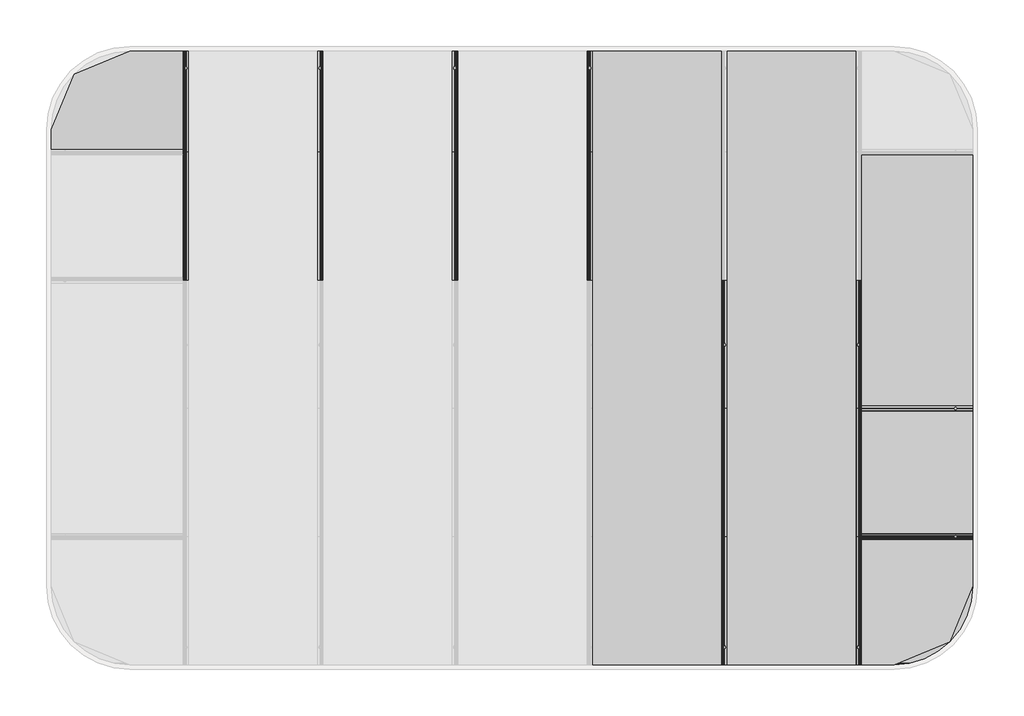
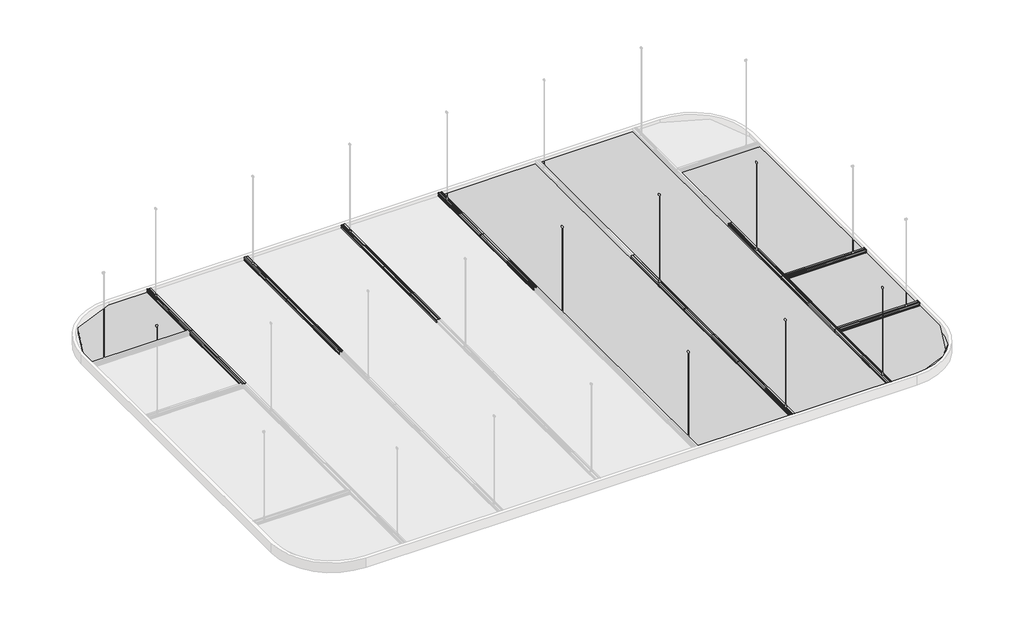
# One storey, part 3 of 4: 89 members, 50 plates.
"""IFC4 building model written with IfcOpenShell, lengths in millimetres."""

from ifc_helpers import new_model, si_unit, origin, place, context, project, spatial, transform, mapped, element, save
from components import circular_mullion_88ff0090, circular_mullion_51bf8350, circular_mullion_cross_tees_bf580255, circular_mullion_hub_cas_a36db33c, circular_mullion_hub_cas_a10b3b58, circular_mullion_hub_cas_675684c7, plate_e06be09b, plate_8db3f6ee, system_panel_solid_2f8d69e4, system_panel_solid_ed8a8987, system_panel_solid_9c654986, system_panel_solid_8416bcea, system_panel_solid_b85fb2bd

model = new_model("IFC4")

# Units and contexts
model_context = context("Model", 3, world=origin())
ifc_project = project(units=[si_unit("LENGTHUNIT", "METRE", prefix="MILLI")], contexts=[model_context])

# Site, building, storey
site = spatial("IfcSite", under=ifc_project)
building = spatial("IfcBuilding", under=site)
storey = spatial("IfcBuildingStorey", under=building, Name="Rockfon Hub", Elevation=2000.0)

# Members
placement = place(None, origin())
circular_mullion_shape = circular_mullion_88ff0090(model_context)
element("IfcMember", 1, ObjectType="Circular Mullion : Main Runners", at=placement, inside=storey, context=model_context, shape_type="MappedRepresentation", body=[
    mapped(circular_mullion_shape, transform((12292.6080689, 10076.1970288, 2001.0), x_axis=(0.0, 1.0, 0.0), y_axis=(0.0, 0.0, -1.0), z_axis=(-1.0, 0.0, 0.0))),
])
element("IfcMember", 2, ObjectType="Circular Mullion : Main Runners", at=placement, inside=storey, context=model_context, shape_type="MappedRepresentation", body=[
    mapped(circular_mullion_shape, transform((12892.6080689, 10076.1970288, 2001.0), x_axis=(0.0, 1.0, 0.0), y_axis=(0.0, 0.0, -1.0), z_axis=(-1.0, 0.0, 0.0))),
])
element("IfcMember", 3, ObjectType="Circular Mullion : Main Runners", at=placement, inside=storey, context=model_context, shape_type="MappedRepresentation", body=[
    mapped(circular_mullion_shape, transform((13492.6080689, 10076.1970288, 2001.0), x_axis=(0.0, 1.0, 0.0), y_axis=(0.0, 0.0, -1.0), z_axis=(-1.0, 0.0, 0.0))),
])
element("IfcMember", 4, ObjectType="Circular Mullion : Main Runners", at=placement, inside=storey, context=model_context, shape_type="MappedRepresentation", body=[
    mapped(circular_mullion_shape, transform((14092.6080689, 10076.1970288, 2001.0), x_axis=(0.0, 1.0, 0.0), y_axis=(0.0, 0.0, -1.0), z_axis=(-1.0, 0.0, 0.0))),
])
element("IfcMember", 5, ObjectType="Circular Mullion : Main Runners", at=placement, inside=storey, context=model_context, shape_type="MappedRepresentation", body=[
    mapped(circular_mullion_shape, transform((14692.6080689, 10076.1970288, 2001.0), x_axis=(0.0, 1.0, 0.0), y_axis=(0.0, 0.0, -1.0), z_axis=(-1.0, 0.0, 0.0))),
])
element("IfcMember", 6, ObjectType="Circular Mullion : Main Runners", at=placement, inside=storey, context=model_context, shape_type="MappedRepresentation", body=[
    mapped(circular_mullion_shape, transform((15292.6080689, 10076.1970288, 2001.0), x_axis=(0.0, 1.0, 0.0), y_axis=(0.0, 0.0, -1.0), z_axis=(-1.0, 0.0, 0.0))),
])
element("IfcMember", 7, ObjectType="Circular Mullion : Main Runners", at=placement, inside=storey, context=model_context, shape_type="MappedRepresentation", body=[
    mapped(circular_mullion_shape, transform((15892.6080689, 10076.1970288, 2001.0), x_axis=(0.0, 1.0, 0.0), y_axis=(0.0, 0.0, -1.0), z_axis=(-1.0, 0.0, 0.0))),
])
element("IfcMember", 8, ObjectType="Circular Mullion : Main Runners", at=placement, inside=storey, context=model_context, shape_type="MappedRepresentation", body=[
    mapped(circular_mullion_shape, transform((12292.6080689, 10676.1970288, 2001.0), x_axis=(0.0, 1.0, 0.0), y_axis=(0.0, 0.0, -1.0), z_axis=(-1.0, 0.0, 0.0))),
])
element("IfcMember", 9, ObjectType="Circular Mullion : Main Runners", at=placement, inside=storey, context=model_context, shape_type="MappedRepresentation", body=[
    mapped(circular_mullion_shape, transform((12892.6080689, 10676.1970288, 2001.0), x_axis=(0.0, 1.0, 0.0), y_axis=(0.0, 0.0, -1.0), z_axis=(-1.0, 0.0, 0.0))),
])
element("IfcMember", 10, ObjectType="Circular Mullion : Main Runners", at=placement, inside=storey, context=model_context, shape_type="MappedRepresentation", body=[
    mapped(circular_mullion_shape, transform((13492.6080689, 10676.1970288, 2001.0), x_axis=(0.0, 1.0, 0.0), y_axis=(0.0, 0.0, -1.0), z_axis=(-1.0, 0.0, 0.0))),
])
element("IfcMember", 11, ObjectType="Circular Mullion : Main Runners", at=placement, inside=storey, context=model_context, shape_type="MappedRepresentation", body=[
    mapped(circular_mullion_shape, transform((14092.6080689, 10676.1970288, 2001.0), x_axis=(0.0, 1.0, 0.0), y_axis=(0.0, 0.0, -1.0), z_axis=(-1.0, 0.0, 0.0))),
])
element("IfcMember", 12, ObjectType="Circular Mullion : Main Runners", at=placement, inside=storey, context=model_context, shape_type="MappedRepresentation", body=[
    mapped(circular_mullion_shape, transform((14692.6080689, 10676.1970288, 2001.0), x_axis=(0.0, 1.0, 0.0), y_axis=(0.0, 0.0, -1.0), z_axis=(-1.0, 0.0, 0.0))),
])
element("IfcMember", 13, ObjectType="Circular Mullion : Main Runners", at=placement, inside=storey, context=model_context, shape_type="MappedRepresentation", body=[
    mapped(circular_mullion_shape, transform((15292.6080689, 10676.1970288, 2001.0), x_axis=(0.0, 1.0, 0.0), y_axis=(0.0, 0.0, -1.0), z_axis=(-1.0, 0.0, 0.0))),
])
element("IfcMember", 14, ObjectType="Circular Mullion : Main Runners", at=placement, inside=storey, context=model_context, shape_type="MappedRepresentation", body=[
    mapped(circular_mullion_shape, transform((15892.6080689, 10676.1970288, 2001.0), x_axis=(0.0, 1.0, 0.0), y_axis=(0.0, 0.0, -1.0), z_axis=(-1.0, 0.0, 0.0))),
])
element("IfcMember", 15, ObjectType="Circular Mullion : Main Runners", at=placement, inside=storey, context=model_context, shape_type="MappedRepresentation", body=[
    mapped(circular_mullion_shape, transform((16492.6080689, 7076.1970288, 2001.0), x_axis=(0.0, 1.0, 0.0), y_axis=(0.0, 0.0, -1.0), z_axis=(-1.0, 0.0, 0.0))),
])
element("IfcMember", 16, ObjectType="Circular Mullion : Main Runners", at=placement, inside=storey, context=model_context, shape_type="MappedRepresentation", body=[
    mapped(circular_mullion_shape, transform((17092.6080689, 7076.1970288, 2001.0), x_axis=(0.0, 1.0, 0.0), y_axis=(0.0, 0.0, -1.0), z_axis=(-1.0, 0.0, 0.0))),
])
element("IfcMember", 17, ObjectType="Circular Mullion : Main Runners", at=placement, inside=storey, context=model_context, shape_type="MappedRepresentation", body=[
    mapped(circular_mullion_shape, transform((17692.6080689, 7076.1970288, 2001.0), x_axis=(0.0, 1.0, 0.0), y_axis=(0.0, 0.0, -1.0), z_axis=(-1.0, 0.0, 0.0))),
])
element("IfcMember", 18, ObjectType="Circular Mullion : Main Runners", at=placement, inside=storey, context=model_context, shape_type="MappedRepresentation", body=[
    mapped(circular_mullion_shape, transform((16492.6080689, 7676.1970288, 2001.0), x_axis=(0.0, 1.0, 0.0), y_axis=(0.0, 0.0, -1.0), z_axis=(-1.0, 0.0, 0.0))),
])
element("IfcMember", 19, ObjectType="Circular Mullion : Main Runners", at=placement, inside=storey, context=model_context, shape_type="MappedRepresentation", body=[
    mapped(circular_mullion_shape, transform((17092.6080689, 7676.1970288, 2001.0), x_axis=(0.0, 1.0, 0.0), y_axis=(0.0, 0.0, -1.0), z_axis=(-1.0, 0.0, 0.0))),
])
element("IfcMember", 20, ObjectType="Circular Mullion : Main Runners", at=placement, inside=storey, context=model_context, shape_type="MappedRepresentation", body=[
    mapped(circular_mullion_shape, transform((17692.6080689, 7676.1970288, 2001.0), x_axis=(0.0, 1.0, 0.0), y_axis=(0.0, 0.0, -1.0), z_axis=(-1.0, 0.0, 0.0))),
])
element("IfcMember", 21, ObjectType="Circular Mullion : Main Runners", at=placement, inside=storey, context=model_context, shape_type="MappedRepresentation", body=[
    mapped(circular_mullion_shape, transform((16492.6080689, 8276.1970288, 2001.0), x_axis=(0.0, 1.0, 0.0), y_axis=(0.0, 0.0, -1.0), z_axis=(-1.0, 0.0, 0.0))),
])
element("IfcMember", 22, ObjectType="Circular Mullion : Main Runners", at=placement, inside=storey, context=model_context, shape_type="MappedRepresentation", body=[
    mapped(circular_mullion_shape, transform((17092.6080689, 8276.1970288, 2001.0), x_axis=(0.0, 1.0, 0.0), y_axis=(0.0, 0.0, -1.0), z_axis=(-1.0, 0.0, 0.0))),
])
element("IfcMember", 23, ObjectType="Circular Mullion : Main Runners", at=placement, inside=storey, context=model_context, shape_type="MappedRepresentation", body=[
    mapped(circular_mullion_shape, transform((17692.6080689, 8276.1970288, 2001.0), x_axis=(0.0, 1.0, 0.0), y_axis=(0.0, 0.0, -1.0), z_axis=(-1.0, 0.0, 0.0))),
])
element("IfcMember", 24, ObjectType="Circular Mullion : Main Runners", at=placement, inside=storey, context=model_context, shape_type="MappedRepresentation", body=[
    mapped(circular_mullion_shape, transform((16492.6080689, 8876.1970288, 2001.0), x_axis=(0.0, 1.0, 0.0), y_axis=(0.0, 0.0, -1.0), z_axis=(-1.0, 0.0, 0.0))),
])
element("IfcMember", 25, ObjectType="Circular Mullion : Main Runners", at=placement, inside=storey, context=model_context, shape_type="MappedRepresentation", body=[
    mapped(circular_mullion_shape, transform((17092.6080689, 8876.1970288, 2001.0), x_axis=(0.0, 1.0, 0.0), y_axis=(0.0, 0.0, -1.0), z_axis=(-1.0, 0.0, 0.0))),
])
element("IfcMember", 26, ObjectType="Circular Mullion : Main Runners", at=placement, inside=storey, context=model_context, shape_type="MappedRepresentation", body=[
    mapped(circular_mullion_shape, transform((17692.6080689, 8876.1970288, 2001.0), x_axis=(0.0, 1.0, 0.0), y_axis=(0.0, 0.0, -1.0), z_axis=(-1.0, 0.0, 0.0))),
])
element("IfcMember", 27, ObjectType="Circular Mullion : Main Runners", at=placement, inside=storey, context=model_context, shape_type="MappedRepresentation", body=[
    mapped(circular_mullion_shape, transform((16492.6080689, 9476.1970288, 2001.0), x_axis=(0.0, 1.0, 0.0), y_axis=(0.0, 0.0, -1.0), z_axis=(-1.0, 0.0, 0.0))),
])
element("IfcMember", 28, ObjectType="Circular Mullion : Main Runners", at=placement, inside=storey, context=model_context, shape_type="MappedRepresentation", body=[
    mapped(circular_mullion_shape, transform((17092.6080689, 9476.1970288, 2001.0), x_axis=(0.0, 1.0, 0.0), y_axis=(0.0, 0.0, -1.0), z_axis=(-1.0, 0.0, 0.0))),
])
element("IfcMember", 29, ObjectType="Circular Mullion : Main Runners", at=placement, inside=storey, context=model_context, shape_type="MappedRepresentation", body=[
    mapped(circular_mullion_shape, transform((17692.6080689, 9476.1970288, 2001.0), x_axis=(0.0, 1.0, 0.0), y_axis=(0.0, 0.0, -1.0), z_axis=(-1.0, 0.0, 0.0))),
])
element("IfcMember", 30, ObjectType="Circular Mullion : Main Runners", at=placement, inside=storey, context=model_context, shape_type="MappedRepresentation", body=[
    mapped(circular_mullion_shape, transform((16492.6080689, 10076.1970288, 2001.0), x_axis=(0.0, 1.0, 0.0), y_axis=(0.0, 0.0, -1.0), z_axis=(-1.0, 0.0, 0.0))),
])
element("IfcMember", 31, ObjectType="Circular Mullion : Main Runners", at=placement, inside=storey, context=model_context, shape_type="MappedRepresentation", body=[
    mapped(circular_mullion_shape, transform((16492.6080689, 10676.1970288, 2001.0), x_axis=(0.0, 1.0, 0.0), y_axis=(0.0, 0.0, -1.0), z_axis=(-1.0, 0.0, 0.0))),
])
circular_mullion_2_shape = circular_mullion_51bf8350(model_context)
element("IfcMember", 32, ObjectType="Circular Mullion : Main Runners", at=placement, inside=storey, context=model_context, shape_type="MappedRepresentation", body=[
    mapped(circular_mullion_2_shape, transform((18292.6080689, 7076.1970288, 2001.0), x_axis=(0.0, 1.0, 0.0), y_axis=(0.0, 0.0, -1.0), z_axis=(-1.0, 0.0, 0.0))),
])
element("IfcMember", 33, ObjectType="Circular Mullion : Main Runners", at=placement, inside=storey, context=model_context, shape_type="MappedRepresentation", body=[
    mapped(circular_mullion_2_shape, transform((18292.6080689, 7676.1970288, 2001.0), x_axis=(0.0, 1.0, 0.0), y_axis=(0.0, 0.0, -1.0), z_axis=(-1.0, 0.0, 0.0))),
])
element("IfcMember", 34, ObjectType="Circular Mullion : Main Runners", at=placement, inside=storey, context=model_context, shape_type="MappedRepresentation", body=[
    mapped(circular_mullion_2_shape, transform((18292.6080689, 8276.1970288, 2001.0), x_axis=(0.0, 1.0, 0.0), y_axis=(0.0, 0.0, -1.0), z_axis=(-1.0, 0.0, 0.0))),
])
element("IfcMember", 35, ObjectType="Circular Mullion : Main Runners", at=placement, inside=storey, context=model_context, shape_type="MappedRepresentation", body=[
    mapped(circular_mullion_2_shape, transform((18292.6080689, 8876.1970288, 2001.0), x_axis=(0.0, 1.0, 0.0), y_axis=(0.0, 0.0, -1.0), z_axis=(-1.0, 0.0, 0.0))),
])
element("IfcMember", 36, ObjectType="Circular Mullion : Main Runners", at=placement, inside=storey, context=model_context, shape_type="MappedRepresentation", body=[
    mapped(circular_mullion_2_shape, transform((18292.6080689, 9476.1970288, 2001.0), x_axis=(0.0, 1.0, 0.0), y_axis=(0.0, 0.0, -1.0), z_axis=(-1.0, 0.0, 0.0))),
])
circular_mullion_cross_tees_shape = circular_mullion_cross_tees_bf580255(model_context)
element("IfcMember", 37, ObjectType="Circular Mullion : Cross Tees", at=placement, inside=storey, context=model_context, shape_type="MappedRepresentation", body=[
    mapped(circular_mullion_cross_tees_shape, transform((12280.7018189, 10076.1970288, 2001.0), x_axis=(1.0, 0.0, 0.0), y_axis=(0.0, 0.0, -1.0), z_axis=(0.0, 1.0, 0.0))),
])
element("IfcMember", 38, ObjectType="Circular Mullion : Cross Tees", at=placement, inside=storey, context=model_context, shape_type="MappedRepresentation", body=[
    mapped(circular_mullion_cross_tees_shape, transform((12280.7018189, 10676.1970288, 2001.0), x_axis=(1.0, 0.0, 0.0), y_axis=(0.0, 0.0, -1.0), z_axis=(0.0, 1.0, 0.0))),
])
element("IfcMember", 39, ObjectType="Circular Mullion : Cross Tees", at=placement, inside=storey, context=model_context, shape_type="MappedRepresentation", body=[
    mapped(circular_mullion_cross_tees_shape, transform((12880.7018189, 10076.1970288, 2001.0), x_axis=(1.0, 0.0, 0.0), y_axis=(0.0, 0.0, -1.0), z_axis=(0.0, 1.0, 0.0))),
])
element("IfcMember", 40, ObjectType="Circular Mullion : Cross Tees", at=placement, inside=storey, context=model_context, shape_type="MappedRepresentation", body=[
    mapped(circular_mullion_cross_tees_shape, transform((12880.7018189, 10676.1970288, 2001.0), x_axis=(1.0, 0.0, 0.0), y_axis=(0.0, 0.0, -1.0), z_axis=(0.0, 1.0, 0.0))),
])
element("IfcMember", 41, ObjectType="Circular Mullion : Cross Tees", at=placement, inside=storey, context=model_context, shape_type="MappedRepresentation", body=[
    mapped(circular_mullion_cross_tees_shape, transform((13480.7018189, 10076.1970288, 2001.0), x_axis=(1.0, 0.0, 0.0), y_axis=(0.0, 0.0, -1.0), z_axis=(0.0, 1.0, 0.0))),
])
element("IfcMember", 42, ObjectType="Circular Mullion : Cross Tees", at=placement, inside=storey, context=model_context, shape_type="MappedRepresentation", body=[
    mapped(circular_mullion_cross_tees_shape, transform((13480.7018189, 10676.1970288, 2001.0), x_axis=(1.0, 0.0, 0.0), y_axis=(0.0, 0.0, -1.0), z_axis=(0.0, 1.0, 0.0))),
])
element("IfcMember", 43, ObjectType="Circular Mullion : Cross Tees", at=placement, inside=storey, context=model_context, shape_type="MappedRepresentation", body=[
    mapped(circular_mullion_cross_tees_shape, transform((14080.7018189, 10076.1970288, 2001.0), x_axis=(1.0, 0.0, 0.0), y_axis=(0.0, 0.0, -1.0), z_axis=(0.0, 1.0, 0.0))),
])
element("IfcMember", 44, ObjectType="Circular Mullion : Cross Tees", at=placement, inside=storey, context=model_context, shape_type="MappedRepresentation", body=[
    mapped(circular_mullion_cross_tees_shape, transform((14080.7018189, 10676.1970288, 2001.0), x_axis=(1.0, 0.0, 0.0), y_axis=(0.0, 0.0, -1.0), z_axis=(0.0, 1.0, 0.0))),
])
element("IfcMember", 45, ObjectType="Circular Mullion : Cross Tees", at=placement, inside=storey, context=model_context, shape_type="MappedRepresentation", body=[
    mapped(circular_mullion_cross_tees_shape, transform((14680.7018189, 10076.1970288, 2001.0), x_axis=(1.0, 0.0, 0.0), y_axis=(0.0, 0.0, -1.0), z_axis=(0.0, 1.0, 0.0))),
])
element("IfcMember", 46, ObjectType="Circular Mullion : Cross Tees", at=placement, inside=storey, context=model_context, shape_type="MappedRepresentation", body=[
    mapped(circular_mullion_cross_tees_shape, transform((14680.7018189, 10676.1970288, 2001.0), x_axis=(1.0, 0.0, 0.0), y_axis=(0.0, 0.0, -1.0), z_axis=(0.0, 1.0, 0.0))),
])
element("IfcMember", 47, ObjectType="Circular Mullion : Cross Tees", at=placement, inside=storey, context=model_context, shape_type="MappedRepresentation", body=[
    mapped(circular_mullion_cross_tees_shape, transform((15280.7018189, 10076.1970288, 2001.0), x_axis=(1.0, 0.0, 0.0), y_axis=(0.0, 0.0, -1.0), z_axis=(0.0, 1.0, 0.0))),
])
element("IfcMember", 48, ObjectType="Circular Mullion : Cross Tees", at=placement, inside=storey, context=model_context, shape_type="MappedRepresentation", body=[
    mapped(circular_mullion_cross_tees_shape, transform((15280.7018189, 10676.1970288, 2001.0), x_axis=(1.0, 0.0, 0.0), y_axis=(0.0, 0.0, -1.0), z_axis=(0.0, 1.0, 0.0))),
])
element("IfcMember", 49, ObjectType="Circular Mullion : Cross Tees", at=placement, inside=storey, context=model_context, shape_type="MappedRepresentation", body=[
    mapped(circular_mullion_cross_tees_shape, transform((15880.7018189, 10076.1970288, 2001.0), x_axis=(1.0, 0.0, 0.0), y_axis=(0.0, 0.0, -1.0), z_axis=(0.0, 1.0, 0.0))),
])
element("IfcMember", 50, ObjectType="Circular Mullion : Cross Tees", at=placement, inside=storey, context=model_context, shape_type="MappedRepresentation", body=[
    mapped(circular_mullion_cross_tees_shape, transform((15880.7018189, 10676.1970288, 2001.0), x_axis=(1.0, 0.0, 0.0), y_axis=(0.0, 0.0, -1.0), z_axis=(0.0, 1.0, 0.0))),
])
element("IfcMember", 51, ObjectType="Circular Mullion : Cross Tees", at=placement, inside=storey, context=model_context, shape_type="MappedRepresentation", body=[
    mapped(circular_mullion_cross_tees_shape, transform((16480.7018189, 7676.1970288, 2001.0), x_axis=(1.0, 0.0, 0.0), y_axis=(0.0, 0.0, -1.0), z_axis=(0.0, 1.0, 0.0))),
])
element("IfcMember", 52, ObjectType="Circular Mullion : Cross Tees", at=placement, inside=storey, context=model_context, shape_type="MappedRepresentation", body=[
    mapped(circular_mullion_cross_tees_shape, transform((17080.7018189, 7676.1970288, 2001.0), x_axis=(1.0, 0.0, 0.0), y_axis=(0.0, 0.0, -1.0), z_axis=(0.0, 1.0, 0.0))),
])
element("IfcMember", 53, ObjectType="Circular Mullion : Cross Tees", at=placement, inside=storey, context=model_context, shape_type="MappedRepresentation", body=[
    mapped(circular_mullion_cross_tees_shape, transform((17680.7018189, 7676.1970288, 2001.0), x_axis=(1.0, 0.0, 0.0), y_axis=(0.0, 0.0, -1.0), z_axis=(0.0, 1.0, 0.0))),
])
element("IfcMember", 54, ObjectType="Circular Mullion : Cross Tees", at=placement, inside=storey, context=model_context, shape_type="MappedRepresentation", body=[
    mapped(circular_mullion_cross_tees_shape, transform((18280.7018189, 7676.1970288, 2001.0), x_axis=(1.0, 0.0, 0.0), y_axis=(0.0, 0.0, -1.0), z_axis=(0.0, 1.0, 0.0))),
])
element("IfcMember", 55, ObjectType="Circular Mullion : Cross Tees", at=placement, inside=storey, context=model_context, shape_type="MappedRepresentation", body=[
    mapped(circular_mullion_cross_tees_shape, transform((16480.7018189, 8276.1970288, 2001.0), x_axis=(1.0, 0.0, 0.0), y_axis=(0.0, 0.0, -1.0), z_axis=(0.0, 1.0, 0.0))),
])
element("IfcMember", 56, ObjectType="Circular Mullion : Cross Tees", at=placement, inside=storey, context=model_context, shape_type="MappedRepresentation", body=[
    mapped(circular_mullion_cross_tees_shape, transform((17080.7018189, 8276.1970288, 2001.0), x_axis=(1.0, 0.0, 0.0), y_axis=(0.0, 0.0, -1.0), z_axis=(0.0, 1.0, 0.0))),
])
element("IfcMember", 57, ObjectType="Circular Mullion : Cross Tees", at=placement, inside=storey, context=model_context, shape_type="MappedRepresentation", body=[
    mapped(circular_mullion_cross_tees_shape, transform((17680.7018189, 8276.1970288, 2001.0), x_axis=(1.0, 0.0, 0.0), y_axis=(0.0, 0.0, -1.0), z_axis=(0.0, 1.0, 0.0))),
])
element("IfcMember", 58, ObjectType="Circular Mullion : Cross Tees", at=placement, inside=storey, context=model_context, shape_type="MappedRepresentation", body=[
    mapped(circular_mullion_cross_tees_shape, transform((18280.7018189, 8276.1970288, 2001.0), x_axis=(1.0, 0.0, 0.0), y_axis=(0.0, 0.0, -1.0), z_axis=(0.0, 1.0, 0.0))),
])
element("IfcMember", 59, ObjectType="Circular Mullion : Cross Tees", at=placement, inside=storey, context=model_context, shape_type="MappedRepresentation", body=[
    mapped(circular_mullion_cross_tees_shape, transform((16480.7018189, 8876.1970288, 2001.0), x_axis=(1.0, 0.0, 0.0), y_axis=(0.0, 0.0, -1.0), z_axis=(0.0, 1.0, 0.0))),
])
element("IfcMember", 60, ObjectType="Circular Mullion : Cross Tees", at=placement, inside=storey, context=model_context, shape_type="MappedRepresentation", body=[
    mapped(circular_mullion_cross_tees_shape, transform((17080.7018189, 8876.1970288, 2001.0), x_axis=(1.0, 0.0, 0.0), y_axis=(0.0, 0.0, -1.0), z_axis=(0.0, 1.0, 0.0))),
])
element("IfcMember", 61, ObjectType="Circular Mullion : Cross Tees", at=placement, inside=storey, context=model_context, shape_type="MappedRepresentation", body=[
    mapped(circular_mullion_cross_tees_shape, transform((17680.7018189, 8876.1970288, 2001.0), x_axis=(1.0, 0.0, 0.0), y_axis=(0.0, 0.0, -1.0), z_axis=(0.0, 1.0, 0.0))),
])
element("IfcMember", 62, ObjectType="Circular Mullion : Cross Tees", at=placement, inside=storey, context=model_context, shape_type="MappedRepresentation", body=[
    mapped(circular_mullion_cross_tees_shape, transform((18280.7018189, 8876.1970288, 2001.0), x_axis=(1.0, 0.0, 0.0), y_axis=(0.0, 0.0, -1.0), z_axis=(0.0, 1.0, 0.0))),
])
element("IfcMember", 63, ObjectType="Circular Mullion : Cross Tees", at=placement, inside=storey, context=model_context, shape_type="MappedRepresentation", body=[
    mapped(circular_mullion_cross_tees_shape, transform((16480.7018189, 9476.1970288, 2001.0), x_axis=(1.0, 0.0, 0.0), y_axis=(0.0, 0.0, -1.0), z_axis=(0.0, 1.0, 0.0))),
])
element("IfcMember", 64, ObjectType="Circular Mullion : Cross Tees", at=placement, inside=storey, context=model_context, shape_type="MappedRepresentation", body=[
    mapped(circular_mullion_cross_tees_shape, transform((17080.7018189, 9476.1970288, 2001.0), x_axis=(1.0, 0.0, 0.0), y_axis=(0.0, 0.0, -1.0), z_axis=(0.0, 1.0, 0.0))),
])
element("IfcMember", 65, ObjectType="Circular Mullion : Cross Tees", at=placement, inside=storey, context=model_context, shape_type="MappedRepresentation", body=[
    mapped(circular_mullion_cross_tees_shape, transform((17680.7018189, 9476.1970288, 2001.0), x_axis=(1.0, 0.0, 0.0), y_axis=(0.0, 0.0, -1.0), z_axis=(0.0, 1.0, 0.0))),
])
element("IfcMember", 66, ObjectType="Circular Mullion : Cross Tees", at=placement, inside=storey, context=model_context, shape_type="MappedRepresentation", body=[
    mapped(circular_mullion_cross_tees_shape, transform((18280.7018189, 9476.1970288, 2001.0), x_axis=(1.0, 0.0, 0.0), y_axis=(0.0, 0.0, -1.0), z_axis=(0.0, 1.0, 0.0))),
])
element("IfcMember", 67, ObjectType="Circular Mullion : Cross Tees", at=placement, inside=storey, context=model_context, shape_type="MappedRepresentation", body=[
    mapped(circular_mullion_cross_tees_shape, transform((16480.7018189, 10076.1970288, 2001.0), x_axis=(1.0, 0.0, 0.0), y_axis=(0.0, 0.0, -1.0), z_axis=(0.0, 1.0, 0.0))),
])
element("IfcMember", 68, ObjectType="Circular Mullion : Cross Tees", at=placement, inside=storey, context=model_context, shape_type="MappedRepresentation", body=[
    mapped(circular_mullion_cross_tees_shape, transform((16480.7018189, 10676.1970288, 2001.0), x_axis=(1.0, 0.0, 0.0), y_axis=(0.0, 0.0, -1.0), z_axis=(0.0, 1.0, 0.0))),
])
element("IfcMember", 69, ObjectType="Circular Mullion : Cross Tees", at=placement, inside=storey, context=model_context, shape_type="MappedRepresentation", body=[
    mapped(circular_mullion_cross_tees_shape, transform((16480.7018189, 7076.1970288, 2001.0), x_axis=(1.0, 0.0, 0.0), y_axis=(0.0, 0.0, -1.0), z_axis=(0.0, 1.0, 0.0))),
])
element("IfcMember", 70, ObjectType="Circular Mullion : Cross Tees", at=placement, inside=storey, context=model_context, shape_type="MappedRepresentation", body=[
    mapped(circular_mullion_cross_tees_shape, transform((17080.7018189, 7076.1970288, 2001.0), x_axis=(1.0, 0.0, 0.0), y_axis=(0.0, 0.0, -1.0), z_axis=(0.0, 1.0, 0.0))),
])
element("IfcMember", 71, ObjectType="Circular Mullion : Cross Tees", at=placement, inside=storey, context=model_context, shape_type="MappedRepresentation", body=[
    mapped(circular_mullion_cross_tees_shape, transform((17680.7018189, 7076.1970288, 2001.0), x_axis=(1.0, 0.0, 0.0), y_axis=(0.0, 0.0, -1.0), z_axis=(0.0, 1.0, 0.0))),
])
element("IfcMember", 72, ObjectType="Circular Mullion : Cross Tees", at=placement, inside=storey, context=model_context, shape_type="MappedRepresentation", body=[
    mapped(circular_mullion_cross_tees_shape, transform((18280.7018189, 7076.1970288, 2001.0), x_axis=(1.0, 0.0, 0.0), y_axis=(0.0, 0.0, -1.0), z_axis=(0.0, 1.0, 0.0))),
])
element("IfcMember", 73, ObjectType="Circular Mullion : Cross Tees", at=placement, inside=storey, context=model_context, shape_type="MappedRepresentation", body=[
    mapped(circular_mullion_cross_tees_shape, transform((15880.7018189, 11276.1970288, 2001.0), x_axis=(1.0, 0.0, 0.0), y_axis=(0.0, 0.0, -1.0), z_axis=(0.0, 1.0, 0.0))),
])
circular_mullion_hub_cas_shape = circular_mullion_hub_cas_a36db33c(model_context)
element("IfcMember", 74, ObjectType="Circular Mullion : HUB CAS", at=placement, inside=storey, context=model_context, shape_type="MappedRepresentation", body=[
    mapped(circular_mullion_hub_cas_shape, transform((17985.851819, 7480.9870288, 2050.0), x_axis=(1.0, 0.0, 0.0), y_axis=(0.0, 0.0, -1.0), z_axis=(0.0, 1.0, 0.0))),
])
element("IfcMember", 75, ObjectType="Circular Mullion : HUB CAS", at=placement, inside=storey, context=model_context, shape_type="MappedRepresentation", body=[
    mapped(circular_mullion_hub_cas_shape, transform((17985.851819, 8480.9870288, 2050.0), x_axis=(1.0, 0.0, 0.0), y_axis=(0.0, 0.0, -1.0), z_axis=(0.0, 1.0, 0.0))),
])
element("IfcMember", 76, ObjectType="Circular Mullion : HUB CAS", at=placement, inside=storey, context=model_context, shape_type="MappedRepresentation", body=[
    mapped(circular_mullion_hub_cas_shape, transform((12735.851819, 10480.9870288, 2050.0), x_axis=(1.0, 0.0, 0.0), y_axis=(0.0, 0.0, -1.0), z_axis=(0.0, 1.0, 0.0))),
])
element("IfcMember", 77, ObjectType="Circular Mullion : HUB CAS", at=placement, inside=storey, context=model_context, shape_type="MappedRepresentation", body=[
    mapped(circular_mullion_hub_cas_shape, transform((16935.851819, 7480.9870288, 2050.0), x_axis=(1.0, 0.0, 0.0), y_axis=(0.0, 0.0, -1.0), z_axis=(0.0, 1.0, 0.0))),
])
element("IfcMember", 78, ObjectType="Circular Mullion : HUB CAS", at=placement, inside=storey, context=model_context, shape_type="MappedRepresentation", body=[
    mapped(circular_mullion_hub_cas_shape, transform((16935.851819, 8480.9870288, 2050.0), x_axis=(1.0, 0.0, 0.0), y_axis=(0.0, 0.0, -1.0), z_axis=(0.0, 1.0, 0.0))),
])
element("IfcMember", 79, ObjectType="Circular Mullion : HUB CAS", at=placement, inside=storey, context=model_context, shape_type="MappedRepresentation", body=[
    mapped(circular_mullion_hub_cas_shape, transform((16935.851819, 9480.9870288, 2050.0), x_axis=(1.0, 0.0, 0.0), y_axis=(0.0, 0.0, -1.0), z_axis=(0.0, 1.0, 0.0))),
])
element("IfcMember", 80, ObjectType="Circular Mullion : HUB CAS", at=placement, inside=storey, context=model_context, shape_type="MappedRepresentation", body=[
    mapped(circular_mullion_hub_cas_shape, transform((13785.851819, 10480.9870288, 2050.0), x_axis=(1.0, 0.0, 0.0), y_axis=(0.0, 0.0, -1.0), z_axis=(0.0, 1.0, 0.0))),
])
element("IfcMember", 81, ObjectType="Circular Mullion : HUB CAS", at=placement, inside=storey, context=model_context, shape_type="MappedRepresentation", body=[
    mapped(circular_mullion_hub_cas_shape, transform((14835.851819, 10480.9870288, 2050.0), x_axis=(1.0, 0.0, 0.0), y_axis=(0.0, 0.0, -1.0), z_axis=(0.0, 1.0, 0.0))),
])
element("IfcMember", 82, ObjectType="Circular Mullion : HUB CAS", at=placement, inside=storey, context=model_context, shape_type="MappedRepresentation", body=[
    mapped(circular_mullion_hub_cas_shape, transform((15885.851819, 10480.9870288, 2050.0), x_axis=(1.0, 0.0, 0.0), y_axis=(0.0, 0.0, -1.0), z_axis=(0.0, 1.0, 0.0))),
])
circular_mullion_hub_cas_2_shape = circular_mullion_hub_cas_a10b3b58(model_context)
element("IfcMember", 83, ObjectType="Circular Mullion : HUB CAS", at=placement, inside=storey, context=model_context, shape_type="MappedRepresentation", body=[
    mapped(circular_mullion_hub_cas_2_shape, transform((12735.851819, 11270.9870288, 2050.0), x_axis=(1.0, 0.0, 0.0), y_axis=(0.0, 0.0, -1.0), z_axis=(0.0, 1.0, 0.0))),
])
element("IfcMember", 84, ObjectType="Circular Mullion : HUB CAS", at=placement, inside=storey, context=model_context, shape_type="MappedRepresentation", body=[
    mapped(circular_mullion_hub_cas_2_shape, transform((13785.851819, 11270.9870288, 2050.0), x_axis=(1.0, 0.0, 0.0), y_axis=(0.0, 0.0, -1.0), z_axis=(0.0, 1.0, 0.0))),
])
element("IfcMember", 85, ObjectType="Circular Mullion : HUB CAS", at=placement, inside=storey, context=model_context, shape_type="MappedRepresentation", body=[
    mapped(circular_mullion_hub_cas_2_shape, transform((14835.851819, 11270.9870288, 2050.0), x_axis=(1.0, 0.0, 0.0), y_axis=(0.0, 0.0, -1.0), z_axis=(0.0, 1.0, 0.0))),
])
element("IfcMember", 86, ObjectType="Circular Mullion : HUB CAS", at=placement, inside=storey, context=model_context, shape_type="MappedRepresentation", body=[
    mapped(circular_mullion_hub_cas_2_shape, transform((15885.851819, 11270.9870288, 2050.0), x_axis=(1.0, 0.0, 0.0), y_axis=(0.0, 0.0, -1.0), z_axis=(0.0, 1.0, 0.0))),
])
element("IfcMember", 87, ObjectType="Circular Mullion : HUB CAS", at=placement, inside=storey, context=model_context, shape_type="MappedRepresentation", body=[
    mapped(circular_mullion_hub_cas_shape, transform((17985.851819, 9480.9870288, 2050.0), x_axis=(1.0, 0.0, 0.0), y_axis=(0.0, 0.0, -1.0), z_axis=(0.0, 1.0, 0.0))),
])
circular_mullion_hub_cas_3_shape = circular_mullion_hub_cas_675684c7(model_context)
element("IfcMember", 88, ObjectType="Circular Mullion : HUB CAS", at=placement, inside=storey, context=model_context, shape_type="MappedRepresentation", body=[
    mapped(circular_mullion_hub_cas_3_shape, transform((18005.850743, 7480.9870288, 2050.0), x_axis=(0.0, 1.0, 0.0), y_axis=(0.0, 0.0, -1.0), z_axis=(-1.0, 0.0, 0.0))),
])
element("IfcMember", 89, ObjectType="Circular Mullion : HUB CAS", at=placement, inside=storey, context=model_context, shape_type="MappedRepresentation", body=[
    mapped(circular_mullion_hub_cas_3_shape, transform((18005.850743, 8480.9870288, 2050.0), x_axis=(0.0, 1.0, 0.0), y_axis=(0.0, 0.0, -1.0), z_axis=(-1.0, 0.0, 0.0))),
])

# Plates
plate_shape = plate_e06be09b(model_context)
element("IfcPlate", 90, ObjectType="Rockfon X CORNER 3 : Rockfon Blanka X", at=placement, inside=storey, context=model_context, shape_type="MappedRepresentation", body=[
    mapped(plate_shape, transform((18580.7018187, 6476.1970288, 2001.0), x_axis=(1.0, 0.0, 0.0), y_axis=(0.0, 0.0, -1.0), z_axis=(0.0, 1.0, 0.0))),
])
plate_2_shape = plate_8db3f6ee(model_context)
element("IfcPlate", 91, ObjectType="Rockfon Blanka X : Rockfon Blanka X", at=placement, inside=storey, context=model_context, shape_type="MappedRepresentation", body=[
    mapped(plate_2_shape, transform((16180.7018189, 6476.1970288, 2001.0), x_axis=(1.0, 0.0, 0.0), y_axis=(0.0, 0.0, -1.0), z_axis=(0.0, 1.0, 0.0))),
])
element("IfcPlate", 92, ObjectType="Rockfon Blanka X : Rockfon Blanka X", at=placement, inside=storey, context=model_context, shape_type="MappedRepresentation", body=[
    mapped(plate_2_shape, transform((16180.7018189, 7076.1970288, 2001.0), x_axis=(1.0, 0.0, 0.0), y_axis=(0.0, 0.0, -1.0), z_axis=(0.0, 1.0, 0.0))),
])
element("IfcPlate", 93, ObjectType="Rockfon Blanka X : Rockfon Blanka X", at=placement, inside=storey, context=model_context, shape_type="MappedRepresentation", body=[
    mapped(plate_2_shape, transform((16180.7018189, 7676.1970288, 2001.0), x_axis=(1.0, 0.0, 0.0), y_axis=(0.0, 0.0, -1.0), z_axis=(0.0, 1.0, 0.0))),
])
element("IfcPlate", 94, ObjectType="Rockfon Blanka X : Rockfon Blanka X", at=placement, inside=storey, context=model_context, shape_type="MappedRepresentation", body=[
    mapped(plate_2_shape, transform((16180.7018189, 8276.1970288, 2001.0), x_axis=(1.0, 0.0, 0.0), y_axis=(0.0, 0.0, -1.0), z_axis=(0.0, 1.0, 0.0))),
])
element("IfcPlate", 95, ObjectType="Rockfon Blanka X : Rockfon Blanka X", at=placement, inside=storey, context=model_context, shape_type="MappedRepresentation", body=[
    mapped(plate_2_shape, transform((16180.7018189, 8876.1970288, 2001.0), x_axis=(1.0, 0.0, 0.0), y_axis=(0.0, 0.0, -1.0), z_axis=(0.0, 1.0, 0.0))),
])
element("IfcPlate", 96, ObjectType="Rockfon Blanka X : Rockfon Blanka X", at=placement, inside=storey, context=model_context, shape_type="MappedRepresentation", body=[
    mapped(plate_2_shape, transform((16180.7018189, 9476.1970288, 2001.0), x_axis=(1.0, 0.0, 0.0), y_axis=(0.0, 0.0, -1.0), z_axis=(0.0, 1.0, 0.0))),
])
element("IfcPlate", 97, ObjectType="Rockfon Blanka X : Rockfon Blanka X", at=placement, inside=storey, context=model_context, shape_type="MappedRepresentation", body=[
    mapped(plate_2_shape, transform((13180.7018189, 10076.1970288, 2001.0), x_axis=(1.0, 0.0, 0.0), y_axis=(0.0, 0.0, -1.0), z_axis=(0.0, 1.0, 0.0))),
])
element("IfcPlate", 98, ObjectType="Rockfon Blanka X : Rockfon Blanka X", at=placement, inside=storey, context=model_context, shape_type="MappedRepresentation", body=[
    mapped(plate_2_shape, transform((13780.7018189, 10076.1970288, 2001.0), x_axis=(1.0, 0.0, 0.0), y_axis=(0.0, 0.0, -1.0), z_axis=(0.0, 1.0, 0.0))),
])
element("IfcPlate", 99, ObjectType="Rockfon Blanka X : Rockfon Blanka X", at=placement, inside=storey, context=model_context, shape_type="MappedRepresentation", body=[
    mapped(plate_2_shape, transform((14380.7018189, 10076.1970288, 2001.0), x_axis=(1.0, 0.0, 0.0), y_axis=(0.0, 0.0, -1.0), z_axis=(0.0, 1.0, 0.0))),
])
element("IfcPlate", 100, ObjectType="Rockfon Blanka X : Rockfon Blanka X", at=placement, inside=storey, context=model_context, shape_type="MappedRepresentation", body=[
    mapped(plate_2_shape, transform((14980.7018189, 10076.1970288, 2001.0), x_axis=(1.0, 0.0, 0.0), y_axis=(0.0, 0.0, -1.0), z_axis=(0.0, 1.0, 0.0))),
])
element("IfcPlate", 101, ObjectType="Rockfon Blanka X : Rockfon Blanka X", at=placement, inside=storey, context=model_context, shape_type="MappedRepresentation", body=[
    mapped(plate_2_shape, transform((15580.7018189, 10076.1970288, 2001.0), x_axis=(1.0, 0.0, 0.0), y_axis=(0.0, 0.0, -1.0), z_axis=(0.0, 1.0, 0.0))),
])
element("IfcPlate", 102, ObjectType="Rockfon Blanka X : Rockfon Blanka X", at=placement, inside=storey, context=model_context, shape_type="MappedRepresentation", body=[
    mapped(plate_2_shape, transform((16180.7018189, 10076.1970288, 2001.0), x_axis=(1.0, 0.0, 0.0), y_axis=(0.0, 0.0, -1.0), z_axis=(0.0, 1.0, 0.0))),
])
element("IfcPlate", 103, ObjectType="Rockfon Blanka X : Rockfon Blanka X", at=placement, inside=storey, context=model_context, shape_type="MappedRepresentation", body=[
    mapped(plate_2_shape, transform((13180.7018189, 10676.1970288, 2001.0), x_axis=(1.0, 0.0, 0.0), y_axis=(0.0, 0.0, -1.0), z_axis=(0.0, 1.0, 0.0))),
])
element("IfcPlate", 104, ObjectType="Rockfon Blanka X : Rockfon Blanka X", at=placement, inside=storey, context=model_context, shape_type="MappedRepresentation", body=[
    mapped(plate_2_shape, transform((13780.7018189, 10676.1970288, 2001.0), x_axis=(1.0, 0.0, 0.0), y_axis=(0.0, 0.0, -1.0), z_axis=(0.0, 1.0, 0.0))),
])
element("IfcPlate", 105, ObjectType="Rockfon Blanka X : Rockfon Blanka X", at=placement, inside=storey, context=model_context, shape_type="MappedRepresentation", body=[
    mapped(plate_2_shape, transform((14380.7018189, 10676.1970288, 2001.0), x_axis=(1.0, 0.0, 0.0), y_axis=(0.0, 0.0, -1.0), z_axis=(0.0, 1.0, 0.0))),
])
element("IfcPlate", 106, ObjectType="Rockfon Blanka X : Rockfon Blanka X", at=placement, inside=storey, context=model_context, shape_type="MappedRepresentation", body=[
    mapped(plate_2_shape, transform((14980.7018189, 10676.1970288, 2001.0), x_axis=(1.0, 0.0, 0.0), y_axis=(0.0, 0.0, -1.0), z_axis=(0.0, 1.0, 0.0))),
])
element("IfcPlate", 107, ObjectType="Rockfon Blanka X : Rockfon Blanka X", at=placement, inside=storey, context=model_context, shape_type="MappedRepresentation", body=[
    mapped(plate_2_shape, transform((15580.7018189, 10676.1970288, 2001.0), x_axis=(1.0, 0.0, 0.0), y_axis=(0.0, 0.0, -1.0), z_axis=(0.0, 1.0, 0.0))),
])
element("IfcPlate", 108, ObjectType="Rockfon Blanka X : Rockfon Blanka X", at=placement, inside=storey, context=model_context, shape_type="MappedRepresentation", body=[
    mapped(plate_2_shape, transform((16180.7018189, 10676.1970288, 2001.0), x_axis=(1.0, 0.0, 0.0), y_axis=(0.0, 0.0, -1.0), z_axis=(0.0, 1.0, 0.0))),
])
element("IfcPlate", 109, ObjectType="Rockfon Blanka X : Rockfon Blanka X", at=placement, inside=storey, context=model_context, shape_type="MappedRepresentation", body=[
    mapped(plate_2_shape, transform((16780.7018189, 6476.1970288, 2001.0), x_axis=(1.0, 0.0, 0.0), y_axis=(0.0, 0.0, -1.0), z_axis=(0.0, 1.0, 0.0))),
])
element("IfcPlate", 110, ObjectType="Rockfon Blanka X : Rockfon Blanka X", at=placement, inside=storey, context=model_context, shape_type="MappedRepresentation", body=[
    mapped(plate_2_shape, transform((16780.7018189, 7076.1970288, 2001.0), x_axis=(1.0, 0.0, 0.0), y_axis=(0.0, 0.0, -1.0), z_axis=(0.0, 1.0, 0.0))),
])
element("IfcPlate", 111, ObjectType="Rockfon Blanka X : Rockfon Blanka X", at=placement, inside=storey, context=model_context, shape_type="MappedRepresentation", body=[
    mapped(plate_2_shape, transform((16780.7018189, 7676.1970288, 2001.0), x_axis=(1.0, 0.0, 0.0), y_axis=(0.0, 0.0, -1.0), z_axis=(0.0, 1.0, 0.0))),
])
element("IfcPlate", 112, ObjectType="Rockfon Blanka X : Rockfon Blanka X", at=placement, inside=storey, context=model_context, shape_type="MappedRepresentation", body=[
    mapped(plate_2_shape, transform((16780.7018189, 8276.1970288, 2001.0), x_axis=(1.0, 0.0, 0.0), y_axis=(0.0, 0.0, -1.0), z_axis=(0.0, 1.0, 0.0))),
])
element("IfcPlate", 113, ObjectType="Rockfon Blanka X : Rockfon Blanka X", at=placement, inside=storey, context=model_context, shape_type="MappedRepresentation", body=[
    mapped(plate_2_shape, transform((16780.7018189, 8876.1970288, 2001.0), x_axis=(1.0, 0.0, 0.0), y_axis=(0.0, 0.0, -1.0), z_axis=(0.0, 1.0, 0.0))),
])
element("IfcPlate", 114, ObjectType="Rockfon Blanka X : Rockfon Blanka X", at=placement, inside=storey, context=model_context, shape_type="MappedRepresentation", body=[
    mapped(plate_2_shape, transform((16780.7018189, 9476.1970288, 2001.0), x_axis=(1.0, 0.0, 0.0), y_axis=(0.0, 0.0, -1.0), z_axis=(0.0, 1.0, 0.0))),
])
element("IfcPlate", 115, ObjectType="Rockfon Blanka X : Rockfon Blanka X", at=placement, inside=storey, context=model_context, shape_type="MappedRepresentation", body=[
    mapped(plate_2_shape, transform((16780.7018189, 10076.1970288, 2001.0), x_axis=(1.0, 0.0, 0.0), y_axis=(0.0, 0.0, -1.0), z_axis=(0.0, 1.0, 0.0))),
])
element("IfcPlate", 116, ObjectType="Rockfon Blanka X : Rockfon Blanka X", at=placement, inside=storey, context=model_context, shape_type="MappedRepresentation", body=[
    mapped(plate_2_shape, transform((16780.7018189, 10676.1970288, 2001.0), x_axis=(1.0, 0.0, 0.0), y_axis=(0.0, 0.0, -1.0), z_axis=(0.0, 1.0, 0.0))),
])
element("IfcPlate", 117, ObjectType="Rockfon Blanka X : Rockfon Blanka X", at=placement, inside=storey, context=model_context, shape_type="MappedRepresentation", body=[
    mapped(plate_2_shape, transform((17380.7018189, 6476.1970288, 2001.0), x_axis=(1.0, 0.0, 0.0), y_axis=(0.0, 0.0, -1.0), z_axis=(0.0, 1.0, 0.0))),
])
element("IfcPlate", 118, ObjectType="Rockfon Blanka X : Rockfon Blanka X", at=placement, inside=storey, context=model_context, shape_type="MappedRepresentation", body=[
    mapped(plate_2_shape, transform((17380.7018189, 7076.1970288, 2001.0), x_axis=(1.0, 0.0, 0.0), y_axis=(0.0, 0.0, -1.0), z_axis=(0.0, 1.0, 0.0))),
])
element("IfcPlate", 119, ObjectType="Rockfon Blanka X : Rockfon Blanka X", at=placement, inside=storey, context=model_context, shape_type="MappedRepresentation", body=[
    mapped(plate_2_shape, transform((17380.7018189, 7676.1970288, 2001.0), x_axis=(1.0, 0.0, 0.0), y_axis=(0.0, 0.0, -1.0), z_axis=(0.0, 1.0, 0.0))),
])
element("IfcPlate", 120, ObjectType="Rockfon Blanka X : Rockfon Blanka X", at=placement, inside=storey, context=model_context, shape_type="MappedRepresentation", body=[
    mapped(plate_2_shape, transform((17380.7018189, 8276.1970288, 2001.0), x_axis=(1.0, 0.0, 0.0), y_axis=(0.0, 0.0, -1.0), z_axis=(0.0, 1.0, 0.0))),
])
element("IfcPlate", 121, ObjectType="Rockfon Blanka X : Rockfon Blanka X", at=placement, inside=storey, context=model_context, shape_type="MappedRepresentation", body=[
    mapped(plate_2_shape, transform((17380.7018189, 8876.1970288, 2001.0), x_axis=(1.0, 0.0, 0.0), y_axis=(0.0, 0.0, -1.0), z_axis=(0.0, 1.0, 0.0))),
])
element("IfcPlate", 122, ObjectType="Rockfon Blanka X : Rockfon Blanka X", at=placement, inside=storey, context=model_context, shape_type="MappedRepresentation", body=[
    mapped(plate_2_shape, transform((17380.7018189, 9476.1970288, 2001.0), x_axis=(1.0, 0.0, 0.0), y_axis=(0.0, 0.0, -1.0), z_axis=(0.0, 1.0, 0.0))),
])
element("IfcPlate", 123, ObjectType="Rockfon Blanka X : Rockfon Blanka X", at=placement, inside=storey, context=model_context, shape_type="MappedRepresentation", body=[
    mapped(plate_2_shape, transform((17980.7018189, 6476.1970288, 2001.0), x_axis=(1.0, 0.0, 0.0), y_axis=(0.0, 0.0, -1.0), z_axis=(0.0, 1.0, 0.0))),
])
element("IfcPlate", 124, ObjectType="Rockfon Blanka X : Rockfon Blanka X", at=placement, inside=storey, context=model_context, shape_type="MappedRepresentation", body=[
    mapped(plate_2_shape, transform((17980.7018189, 7076.1970288, 2001.0), x_axis=(1.0, 0.0, 0.0), y_axis=(0.0, 0.0, -1.0), z_axis=(0.0, 1.0, 0.0))),
])
element("IfcPlate", 125, ObjectType="Rockfon Blanka X : Rockfon Blanka X", at=placement, inside=storey, context=model_context, shape_type="MappedRepresentation", body=[
    mapped(plate_2_shape, transform((17980.7018189, 7676.1970288, 2001.0), x_axis=(1.0, 0.0, 0.0), y_axis=(0.0, 0.0, -1.0), z_axis=(0.0, 1.0, 0.0))),
])
element("IfcPlate", 126, ObjectType="Rockfon Blanka X : Rockfon Blanka X", at=placement, inside=storey, context=model_context, shape_type="MappedRepresentation", body=[
    mapped(plate_2_shape, transform((17980.7018189, 8276.1970288, 2001.0), x_axis=(1.0, 0.0, 0.0), y_axis=(0.0, 0.0, -1.0), z_axis=(0.0, 1.0, 0.0))),
])
element("IfcPlate", 127, ObjectType="Rockfon Blanka X : Rockfon Blanka X", at=placement, inside=storey, context=model_context, shape_type="MappedRepresentation", body=[
    mapped(plate_2_shape, transform((17980.7018189, 8876.1970288, 2001.0), x_axis=(1.0, 0.0, 0.0), y_axis=(0.0, 0.0, -1.0), z_axis=(0.0, 1.0, 0.0))),
])
element("IfcPlate", 128, ObjectType="Rockfon Blanka X : Rockfon Blanka X", at=placement, inside=storey, context=model_context, shape_type="MappedRepresentation", body=[
    mapped(plate_2_shape, transform((17980.7018189, 9476.1970288, 2001.0), x_axis=(1.0, 0.0, 0.0), y_axis=(0.0, 0.0, -1.0), z_axis=(0.0, 1.0, 0.0))),
])
element("IfcPlate", 129, ObjectType="Rockfon Blanka X : Rockfon Blanka X", at=placement, inside=storey, context=model_context, shape_type="MappedRepresentation", body=[
    mapped(plate_2_shape, transform((18580.7018187, 7076.1970288, 2001.0), x_axis=(1.0, 0.0, 0.0), y_axis=(0.0, 0.0, -1.0), z_axis=(0.0, 1.0, 0.0))),
])
element("IfcPlate", 130, ObjectType="Rockfon Blanka X : Rockfon Blanka X", at=placement, inside=storey, context=model_context, shape_type="MappedRepresentation", body=[
    mapped(plate_2_shape, transform((18580.7018187, 7676.1970288, 2001.0), x_axis=(1.0, 0.0, 0.0), y_axis=(0.0, 0.0, -1.0), z_axis=(0.0, 1.0, 0.0))),
])
element("IfcPlate", 131, ObjectType="Rockfon Blanka X : Rockfon Blanka X", at=placement, inside=storey, context=model_context, shape_type="MappedRepresentation", body=[
    mapped(plate_2_shape, transform((18580.7018187, 8276.1970288, 2001.0), x_axis=(1.0, 0.0, 0.0), y_axis=(0.0, 0.0, -1.0), z_axis=(0.0, 1.0, 0.0))),
])
element("IfcPlate", 132, ObjectType="Rockfon Blanka X : Rockfon Blanka X", at=placement, inside=storey, context=model_context, shape_type="MappedRepresentation", body=[
    mapped(plate_2_shape, transform((18580.7018187, 8876.1970288, 2001.0), x_axis=(1.0, 0.0, 0.0), y_axis=(0.0, 0.0, -1.0), z_axis=(0.0, 1.0, 0.0))),
])
element("IfcPlate", 133, ObjectType="Rockfon Blanka X : Rockfon Blanka X", at=placement, inside=storey, context=model_context, shape_type="MappedRepresentation", body=[
    mapped(plate_2_shape, transform((18580.7018187, 9476.1970288, 2001.0), x_axis=(1.0, 0.0, 0.0), y_axis=(0.0, 0.0, -1.0), z_axis=(0.0, 1.0, 0.0))),
])
system_panel_solid_shape = system_panel_solid_2f8d69e4(model_context)
element("IfcPlate", 134, ObjectType="System Panel : Solid", at=placement, inside=storey, context=model_context, shape_type="MappedRepresentation", body=[
    mapped(system_panel_solid_shape, transform((18430.8518189, 6480.9870288, 2050.0), x_axis=(1.0, 0.0, 0.0), y_axis=(0.0, 0.0, -1.0), z_axis=(0.0, 1.0, 0.0))),
])
system_panel_solid_2_shape = system_panel_solid_ed8a8987(model_context)
element("IfcPlate", 135, ObjectType="System Panel : Solid", at=placement, inside=storey, context=model_context, shape_type="MappedRepresentation", body=[
    mapped(system_panel_solid_2_shape, transform((18430.8518189, 7480.9870288, 2050.0), x_axis=(1.0, 0.0, 0.0), y_axis=(0.0, 0.0, -1.0), z_axis=(0.0, 1.0, 0.0))),
])
system_panel_solid_3_shape = system_panel_solid_9c654986(model_context)
element("IfcPlate", 136, ObjectType="System Panel : Solid", at=placement, inside=storey, context=model_context, shape_type="MappedRepresentation", body=[
    mapped(system_panel_solid_3_shape, transform((12210.8518189, 10480.9870288, 2050.0), x_axis=(1.0, 0.0, 0.0), y_axis=(0.0, 0.0, -1.0), z_axis=(0.0, 1.0, 0.0))),
])
system_panel_solid_4_shape = system_panel_solid_8416bcea(model_context)
element("IfcPlate", 137, ObjectType="System Panel : Solid", at=placement, inside=storey, context=model_context, shape_type="MappedRepresentation", body=[
    mapped(system_panel_solid_4_shape, transform((18430.8518189, 8480.9870288, 2050.0), x_axis=(1.0, 0.0, 0.0), y_axis=(0.0, 0.0, -1.0), z_axis=(0.0, 1.0, 0.0))),
])
system_panel_solid_5_shape = system_panel_solid_b85fb2bd(model_context)
element("IfcPlate", 138, ObjectType="System Panel : Solid", at=placement, inside=storey, context=model_context, shape_type="MappedRepresentation", body=[
    mapped(system_panel_solid_5_shape, transform((16410.851819, 6480.9870288, 2050.0), x_axis=(1.0, 0.0, 0.0), y_axis=(0.0, 0.0, -1.0), z_axis=(0.0, 1.0, 0.0))),
])
element("IfcPlate", 139, ObjectType="System Panel : Solid", at=placement, inside=storey, context=model_context, shape_type="MappedRepresentation", body=[
    mapped(system_panel_solid_5_shape, transform((17460.851819, 6480.9870288, 2050.0), x_axis=(1.0, 0.0, 0.0), y_axis=(0.0, 0.0, -1.0), z_axis=(0.0, 1.0, 0.0))),
])

save(model, "model.ifc")
